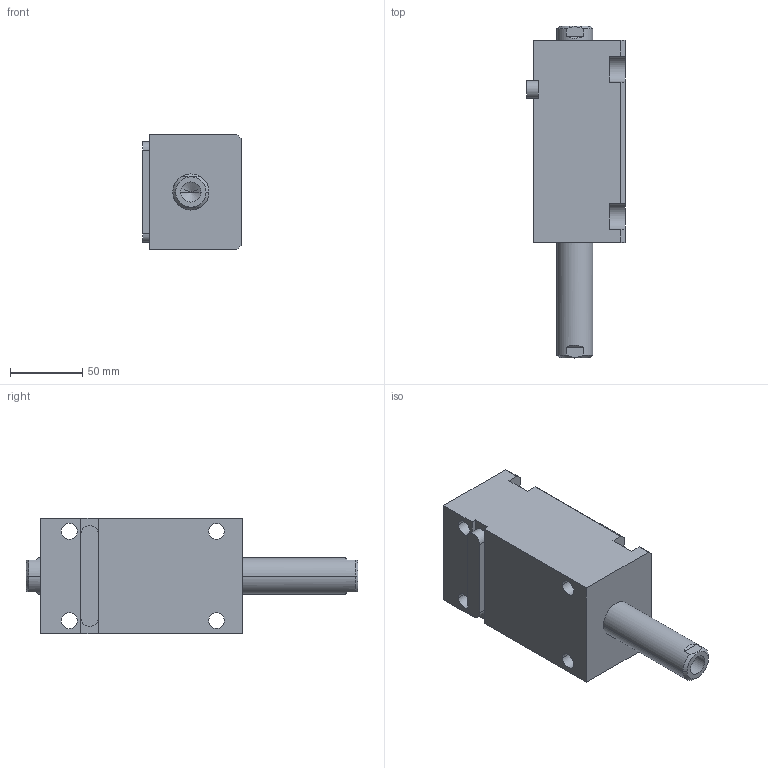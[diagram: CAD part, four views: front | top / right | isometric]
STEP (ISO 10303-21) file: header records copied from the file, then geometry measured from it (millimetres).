
FILE_DESCRIPTION (( 'STEP AP214' ), '1' );
FILE_NAME ('chtb-lw40x70_asm.STEP', '2018-06-05T02:13:39', ( 'Windows' ), ( 'Microsoft' ), 'SwSTEP 2.0', 'SolidWorks 2015', '' );
FILE_SCHEMA (( 'AUTOMOTIVE_DESIGN' ));
Length unit declared in the file: millimetre
Products named in the file (5): CHTB-LA40PJ; chtb-lw40x70_asm; CHTB-SW40X70NHSG; CHTB-SD40QG; CHTB-LW40X70NBT
Assembly tree (4 placements, depth 2):
  chtb-lw40x70_asm
    CHTB-LA40PJ
    CHTB-LW40X70NBT
    CHTB-SD40QG
    CHTB-SW40X70NHSG
Bounding box: 68.5 x 230 x 80 mm (x, y, z)
Volume: 663454.1 mm3; surface area: 112038.4 mm2
Topology: 4 solids, 4 shells, 172 faces, 462 edges, 304 vertices
Faces by surface type: cylinder 77, plane 52, cone 17, bspline 14, torus 12
Entity records: 10654 total; most frequent: CARTESIAN_POINT 6188, ORIENTED_EDGE 904, DIRECTION 853, EDGE_CURVE 452, AXIS2_PLACEMENT_3D 340, VERTEX_POINT 304, EDGE_LOOP 204, CIRCLE 175
